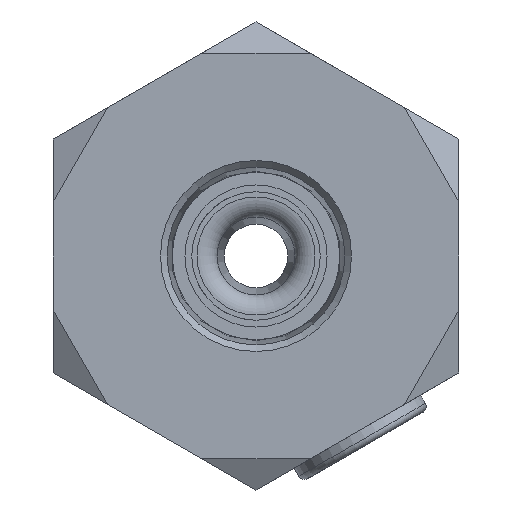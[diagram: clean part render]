
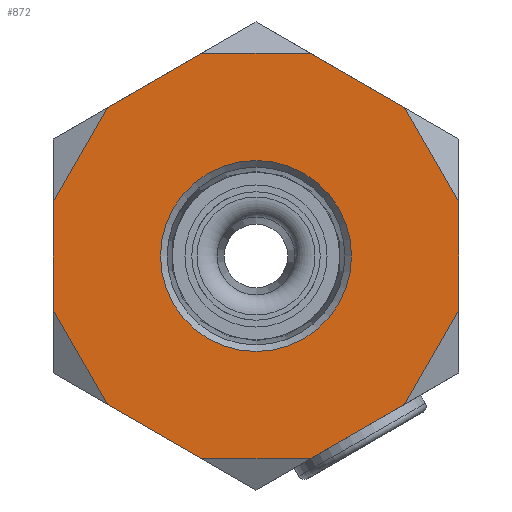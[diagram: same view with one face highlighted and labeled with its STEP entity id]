
A CAD part, left-side view. The second image highlights one B-rep face of the part: STEP entity #872.
In plain terms, the highlighted planar face has unit normal (-1, 0, 0).
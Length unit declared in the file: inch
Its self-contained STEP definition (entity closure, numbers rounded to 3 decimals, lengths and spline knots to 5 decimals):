
#54 = CARTESIAN_POINT ( 'NONE',  ( 0., -0.45753, -0.45753 ) ) ;
#90 = DIRECTION ( 'NONE',  ( 0., 0.866, 0.5 ) ) ;
#92 = LINE ( 'NONE', #2217, #247 ) ;
#94 = VERTEX_POINT ( 'NONE', #1356 ) ;
#159 = EDGE_CURVE ( 'NONE', #615, #1550, #2335, .T. ) ;
#175 = CARTESIAN_POINT ( 'NONE',  ( 0., 0.625, -0.36084 ) ) ;
#212 = ORIENTED_EDGE ( 'NONE', *, *, #1936, .T. ) ;
#222 = LINE ( 'NONE', #1597, #2351 ) ;
#229 = CARTESIAN_POINT ( 'NONE',  ( 0., 0.625, -0.16747 ) ) ;
#236 = EDGE_CURVE ( 'NONE', #615, #412, #1231, .T. ) ;
#243 = VECTOR ( 'NONE', #1636, 39.37008 ) ;
#247 = VECTOR ( 'NONE', #1438, 39.37008 ) ;
#252 = CARTESIAN_POINT ( 'NONE',  ( 0., -0.16747, -0.625 ) ) ;
#296 = ORIENTED_EDGE ( 'NONE', *, *, #1125, .F. ) ;
#377 = EDGE_CURVE ( 'NONE', #1741, #94, #1302, .T. ) ;
#379 = ORIENTED_EDGE ( 'NONE', *, *, #1477, .F. ) ;
#412 = VERTEX_POINT ( 'NONE', #1893 ) ;
#433 = ORIENTED_EDGE ( 'NONE', *, *, #550, .F. ) ;
#445 = ORIENTED_EDGE ( 'NONE', *, *, #159, .T. ) ;
#451 = DIRECTION ( 'NONE',  ( 0., -0.866, 0.5 ) ) ;
#455 = ORIENTED_EDGE ( 'NONE', *, *, #2176, .T. ) ;
#507 = CARTESIAN_POINT ( 'NONE',  ( 0., -0.54127, -0.3125 ) ) ;
#538 = DIRECTION ( 'NONE',  ( 0., 0., -1. ) ) ;
#550 = EDGE_CURVE ( 'NONE', #664, #1827, #1932, .T. ) ;
#556 = DIRECTION ( 'NONE',  ( 0., 1., 0. ) ) ;
#565 = VECTOR ( 'NONE', #762, 39.37008 ) ;
#580 = CARTESIAN_POINT ( 'NONE',  ( 0., 0., 0. ) ) ;
#615 = VERTEX_POINT ( 'NONE', #1244 ) ;
#664 = VERTEX_POINT ( 'NONE', #229 ) ;
#671 = CARTESIAN_POINT ( 'NONE',  ( 0., -0.45753, 0.45753 ) ) ;
#675 = DIRECTION ( 'NONE',  ( 0., -0.866, -0.5 ) ) ;
#684 = VECTOR ( 'NONE', #675, 39.37008 ) ;
#700 = CARTESIAN_POINT ( 'NONE',  ( 0., 0., 0.72169 ) ) ;
#730 = DIRECTION ( 'NONE',  ( 1., 0., 0. ) ) ;
#744 = FACE_OUTER_BOUND ( 'NONE', #2401, .T. ) ;
#762 = DIRECTION ( 'NONE',  ( 0., 0.866, -0.5 ) ) ;
#773 = VECTOR ( 'NONE', #1328, 39.37008 ) ;
#859 = LINE ( 'NONE', #1083, #243 ) ;
#869 = LINE ( 'NONE', #700, #684 ) ;
#872 = ADVANCED_FACE ( 'NONE', ( #2090, #744 ), #2325, .F. ) ;
#897 = VERTEX_POINT ( 'NONE', #1579 ) ;
#936 = LINE ( 'NONE', #2452, #773 ) ;
#950 = DIRECTION ( 'NONE',  ( 0., 0., 1. ) ) ;
#1029 = CARTESIAN_POINT ( 'NONE',  ( 0., 0., 0. ) ) ;
#1083 = CARTESIAN_POINT ( 'NONE',  ( 0., 0.54127, 0.3125 ) ) ;
#1120 = CARTESIAN_POINT ( 'NONE',  ( 0., -0.625, 0.36084 ) ) ;
#1125 = EDGE_CURVE ( 'NONE', #2187, #1550, #2286, .T. ) ;
#1137 = CARTESIAN_POINT ( 'NONE',  ( 0., -0.625, -0.36084 ) ) ;
#1140 = VECTOR ( 'NONE', #1952, 39.37008 ) ;
#1162 = VERTEX_POINT ( 'NONE', #2110 ) ;
#1176 = CARTESIAN_POINT ( 'NONE',  ( 0., 0., -0.625 ) ) ;
#1211 = EDGE_CURVE ( 'NONE', #2344, #94, #222, .T. ) ;
#1231 = LINE ( 'NONE', #1238, #1664 ) ;
#1238 = CARTESIAN_POINT ( 'NONE',  ( 0., 0., -0.72169 ) ) ;
#1244 = CARTESIAN_POINT ( 'NONE',  ( 0., 0.16747, -0.625 ) ) ;
#1275 = DIRECTION ( 'NONE',  ( 0., 0., -1. ) ) ;
#1288 = EDGE_LOOP ( 'NONE', ( #2155 ) ) ;
#1302 = LINE ( 'NONE', #2449, #1920 ) ;
#1328 = DIRECTION ( 'NONE',  ( 0., 0.5, 0.866 ) ) ;
#1345 = CIRCLE ( 'NONE', #2271, 0.29464 ) ;
#1356 = CARTESIAN_POINT ( 'NONE',  ( 0., 0.16747, 0.625 ) ) ;
#1367 = ORIENTED_EDGE ( 'NONE', *, *, #1211, .F. ) ;
#1438 = DIRECTION ( 'NONE',  ( 0., -0.5, -0.866 ) ) ;
#1458 = VECTOR ( 'NONE', #950, 39.37008 ) ;
#1477 = EDGE_CURVE ( 'NONE', #1985, #1162, #2134, .T. ) ;
#1550 = VERTEX_POINT ( 'NONE', #252 ) ;
#1579 = CARTESIAN_POINT ( 'NONE',  ( 0., 0., -0.29464 ) ) ;
#1597 = CARTESIAN_POINT ( 'NONE',  ( 0., 0.625, 0.36084 ) ) ;
#1636 = DIRECTION ( 'NONE',  ( 0., 0.5, -0.866 ) ) ;
#1664 = VECTOR ( 'NONE', #90, 39.37008 ) ;
#1677 = CARTESIAN_POINT ( 'NONE',  ( 0., 0.625, 0.16747 ) ) ;
#1738 = EDGE_CURVE ( 'NONE', #1741, #2145, #869, .T. ) ;
#1741 = VERTEX_POINT ( 'NONE', #2202 ) ;
#1760 = VECTOR ( 'NONE', #1885, 39.37008 ) ;
#1818 = DIRECTION ( 'NONE',  ( 1., 0., 0. ) ) ;
#1822 = EDGE_CURVE ( 'NONE', #2187, #1162, #2237, .T. ) ;
#1827 = VERTEX_POINT ( 'NONE', #1677 ) ;
#1862 = EDGE_CURVE ( 'NONE', #2344, #1827, #859, .T. ) ;
#1885 = DIRECTION ( 'NONE',  ( 0., -0.5, 0.866 ) ) ;
#1893 = CARTESIAN_POINT ( 'NONE',  ( 0., 0.45753, -0.45753 ) ) ;
#1901 = DIRECTION ( 'NONE',  ( 0., 0., -1. ) ) ;
#1920 = VECTOR ( 'NONE', #556, 39.37008 ) ;
#1932 = LINE ( 'NONE', #175, #1458 ) ;
#1936 = EDGE_CURVE ( 'NONE', #1985, #2145, #936, .T. ) ;
#1952 = DIRECTION ( 'NONE',  ( 0., -1., 0. ) ) ;
#1985 = VERTEX_POINT ( 'NONE', #2098 ) ;
#2061 = AXIS2_PLACEMENT_3D ( 'NONE', #580, #730, #538 ) ;
#2090 = FACE_BOUND ( 'NONE', #1288, .T. ) ;
#2098 = CARTESIAN_POINT ( 'NONE',  ( 0., -0.625, 0.16747 ) ) ;
#2110 = CARTESIAN_POINT ( 'NONE',  ( 0., -0.625, -0.16747 ) ) ;
#2134 = LINE ( 'NONE', #1120, #2264 ) ;
#2145 = VERTEX_POINT ( 'NONE', #671 ) ;
#2155 = ORIENTED_EDGE ( 'NONE', *, *, #2179, .T. ) ;
#2172 = CARTESIAN_POINT ( 'NONE',  ( 0., 0.45753, 0.45753 ) ) ;
#2176 = EDGE_CURVE ( 'NONE', #664, #412, #92, .T. ) ;
#2179 = EDGE_CURVE ( 'NONE', #897, #897, #1345, .T. ) ;
#2187 = VERTEX_POINT ( 'NONE', #54 ) ;
#2202 = CARTESIAN_POINT ( 'NONE',  ( 0., -0.16747, 0.625 ) ) ;
#2217 = CARTESIAN_POINT ( 'NONE',  ( 0., 0.54127, -0.3125 ) ) ;
#2237 = LINE ( 'NONE', #507, #1760 ) ;
#2264 = VECTOR ( 'NONE', #1901, 39.37008 ) ;
#2271 = AXIS2_PLACEMENT_3D ( 'NONE', #1029, #1818, #1275 ) ;
#2286 = LINE ( 'NONE', #1137, #565 ) ;
#2289 = ORIENTED_EDGE ( 'NONE', *, *, #1738, .F. ) ;
#2309 = ORIENTED_EDGE ( 'NONE', *, *, #1822, .T. ) ;
#2325 = PLANE ( 'NONE',  #2061 ) ;
#2335 = LINE ( 'NONE', #1176, #1140 ) ;
#2344 = VERTEX_POINT ( 'NONE', #2172 ) ;
#2351 = VECTOR ( 'NONE', #451, 39.37008 ) ;
#2401 = EDGE_LOOP ( 'NONE', ( #433, #455, #2416, #445, #296, #2309, #379, #212, #2289, #2504, #1367, #2479 ) ) ;
#2416 = ORIENTED_EDGE ( 'NONE', *, *, #236, .F. ) ;
#2449 = CARTESIAN_POINT ( 'NONE',  ( 0., 0., 0.625 ) ) ;
#2452 = CARTESIAN_POINT ( 'NONE',  ( 0., -0.54127, 0.3125 ) ) ;
#2479 = ORIENTED_EDGE ( 'NONE', *, *, #1862, .T. ) ;
#2504 = ORIENTED_EDGE ( 'NONE', *, *, #377, .T. ) ;
